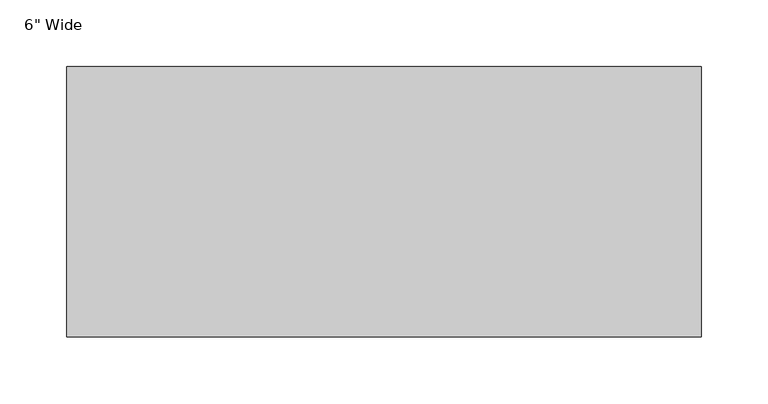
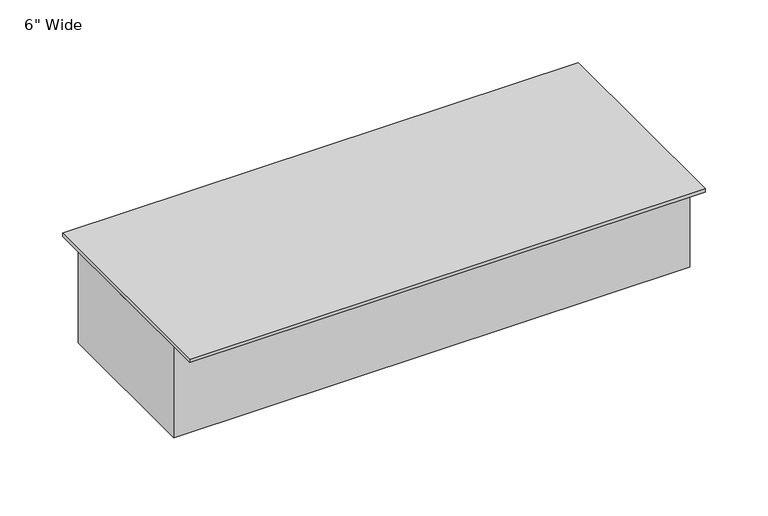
"""IFC4 building model written with IfcOpenShell, lengths in millimetres: proxy geometry."""

from ifc_helpers import new_model, si_unit, frame, origin, place, context, project, spatial, polyline, outline, extrude, source, transform, mapped, element, save


def proxy_dae3a1b6(model_context):
    return source(origin(), model_context, "Body", "SweptSolid", [
        extrude(outline(polyline([(476.25, 101.6), (476.25, -101.6), (0.0, -101.6), (0.0, 101.6), (476.25, 101.6)])), frame((0.0, 0.0, -3.175), z_axis=(0.0, 0.0, 1.0), x_axis=(1.0, 0.0, 0.0)), (0.0, 0.0, 1.0), 3.175),
        extrude(outline(polyline([(476.25, 76.2), (476.25, -76.2), (0.0, -76.2), (0.0, 76.2), (476.25, 76.2)])), frame((0.0, 0.0, -92.075), z_axis=(0.0, 0.0, 1.0), x_axis=(1.0, 0.0, 0.0)), (0.0, 0.0, 1.0), 88.9),
    ])


if __name__ == "__main__":
    model = new_model("IFC4")
    model_context = context("Model", 3, world=origin())
    ifc_project = project(units=[si_unit("LENGTHUNIT", "METRE", prefix="MILLI")], contexts=[model_context])
    site = spatial("IfcSite", under=ifc_project)
    building = spatial("IfcBuilding", under=site)
    placement = place(None, origin())
    proxy_shape = proxy_dae3a1b6(model_context)
    element("IfcBuildingElementProxy", 1, Name="Duct-Wallduct-Wiremold : 6\" Wide", ObjectType="Duct-Wallduct-Wiremold : 6\" Wide", at=placement, inside=building, context=model_context, shape_type="MappedRepresentation", body=[
        mapped(proxy_shape, transform((0.0, 0.0, 0.0), x_axis=(1.0, 0.0, 0.0), y_axis=(0.0, 1.0, 0.0), z_axis=(0.0, 0.0, 1.0))),
    ])
    save(model, "model.ifc")
